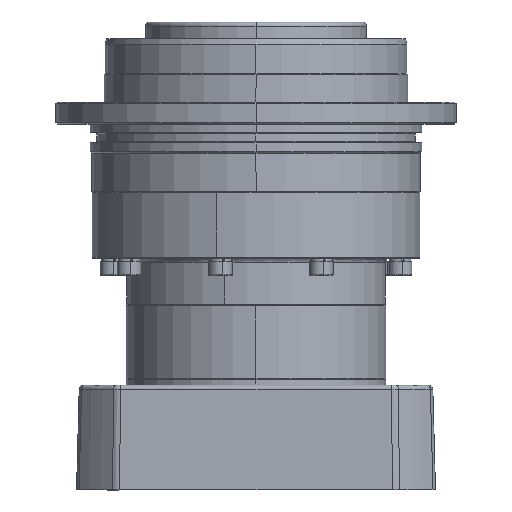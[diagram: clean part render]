
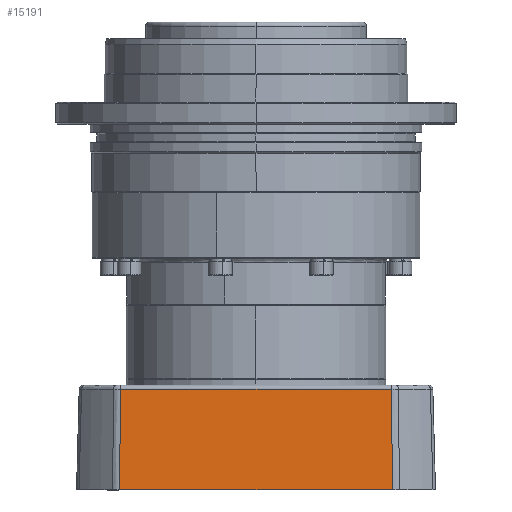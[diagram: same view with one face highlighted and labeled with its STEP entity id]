
A CAD part, left-side view. The second image highlights one B-rep face of the part: STEP entity #15191.
In plain terms, the highlighted planar face has unit normal (-1, 0, 0.026) as drawn and (1, 0, -0.026) by its records, which use the part's own axes.
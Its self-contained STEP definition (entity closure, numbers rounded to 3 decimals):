
#561 = VERTEX_POINT ( 'NONE', #54318 ) ;
#2904 = EDGE_CURVE ( 'NONE', #61574, #35539, #62071, .T. ) ;
#4051 = CARTESIAN_POINT ( 'NONE',  ( -23564.888, 26600.569, 23543. ) ) ;
#10402 = DIRECTION ( 'NONE',  ( 0.026, -0.009, 1. ) ) ;
#13131 = EDGE_CURVE ( 'NONE', #61574, #50731, #58406, .T. ) ;
#15191 = ADVANCED_FACE ( 'NONE', ( #43100 ), #32209, .T. ) ;
#15348 = VECTOR ( 'NONE', #10402, 1000. ) ;
#16247 = VECTOR ( 'NONE', #35563, 1000. ) ;
#17502 = AXIS2_PLACEMENT_3D ( 'NONE', #30955, #30941, #30889 ) ;
#21589 = VECTOR ( 'NONE', #32769, 1000. ) ;
#29947 = EDGE_CURVE ( 'NONE', #50731, #561, #55854, .T. ) ;
#30889 = DIRECTION ( 'NONE',  ( -0.026, 0., -1. ) ) ;
#30941 = DIRECTION ( 'NONE',  ( 1., 0., -0.026 ) ) ;
#30955 = CARTESIAN_POINT ( 'NONE',  ( -23564.888, 26600.569, 23543. ) ) ;
#32209 = PLANE ( 'NONE',  #17502 ) ;
#32769 = DIRECTION ( 'NONE',  ( 0.026, 0.009, 1. ) ) ;
#33213 = CARTESIAN_POINT ( 'NONE',  ( -23565.845, 26598.833, 23506.461 ) ) ;
#35539 = VERTEX_POINT ( 'NONE', #66826 ) ;
#35563 = DIRECTION ( 'NONE',  ( 0., -1., 0. ) ) ;
#35925 = CARTESIAN_POINT ( 'NONE',  ( -23565.845, 26549.763, 23506.461 ) ) ;
#36667 = DIRECTION ( 'NONE',  ( 0., -1., 0. ) ) ;
#37749 = VECTOR ( 'NONE', #36667, 1000. ) ;
#39449 = LINE ( 'NONE', #4051, #37749 ) ;
#43100 = FACE_OUTER_BOUND ( 'NONE', #51654, .T. ) ;
#43510 = ORIENTED_EDGE ( 'NONE', *, *, #2904, .T. ) ;
#49837 = ORIENTED_EDGE ( 'NONE', *, *, #29947, .F. ) ;
#50731 = VERTEX_POINT ( 'NONE', #57023 ) ;
#51654 = EDGE_LOOP ( 'NONE', ( #43510, #57957, #49837, #65109 ) ) ;
#54318 = CARTESIAN_POINT ( 'NONE',  ( -23564.888, 26500.354, 23543. ) ) ;
#55854 = LINE ( 'NONE', #68417, #15348 ) ;
#57023 = CARTESIAN_POINT ( 'NONE',  ( -23565.845, 26500.694, 23506.461 ) ) ;
#57957 = ORIENTED_EDGE ( 'NONE', *, *, #66828, .T. ) ;
#58406 = LINE ( 'NONE', #35925, #16247 ) ;
#61574 = VERTEX_POINT ( 'NONE', #65881 ) ;
#62071 = LINE ( 'NONE', #33213, #21589 ) ;
#65109 = ORIENTED_EDGE ( 'NONE', *, *, #13131, .F. ) ;
#65881 = CARTESIAN_POINT ( 'NONE',  ( -23565.845, 26598.833, 23506.461 ) ) ;
#66826 = CARTESIAN_POINT ( 'NONE',  ( -23564.888, 26599.173, 23543. ) ) ;
#66828 = EDGE_CURVE ( 'NONE', #35539, #561, #39449, .T. ) ;
#68417 = CARTESIAN_POINT ( 'NONE',  ( -23564.888, 26500.354, 23543. ) ) ;
